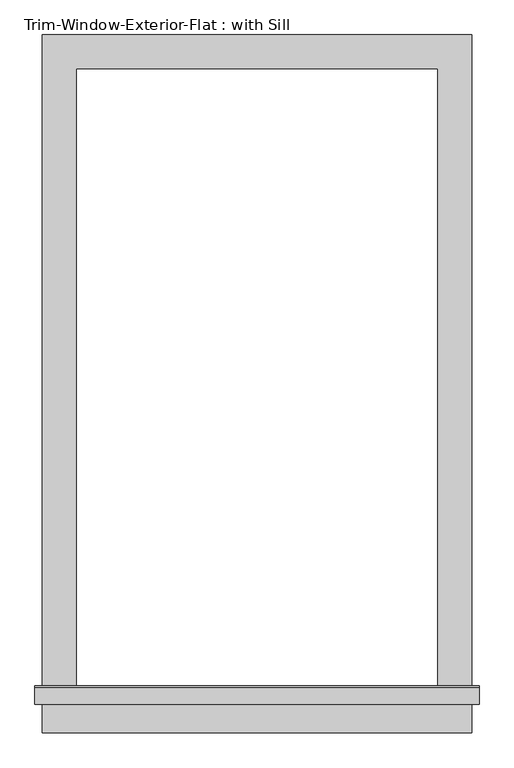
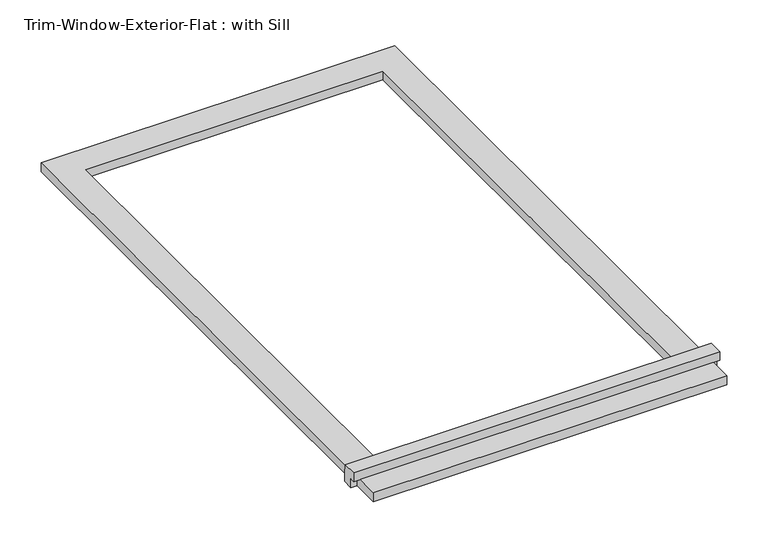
"""IFC4 building model written with IfcOpenShell, lengths in millimetres: proxy geometry, Trim-Window-Exterior-Flat : with Sill."""

from ifc_helpers import new_model, si_unit, frame, origin, origin_with_axes, place, context, project, spatial, polyline, outline, extrude, source, transform, mapped, element, save


def trim_window_exterior_flat_with_sill_8877020c(model_context):
    return source(origin(), model_context, "Body", "SweptSolid", [
        extrude(outline(polyline([(361.95, -1063.5823709), (361.95, -1120.7323709), (-361.95, -1120.7323709), (-361.95, -1063.5823709), (361.95, -1063.5823709)])), origin_with_axes(), (0.0, 0.0, 1.0), 19.05),
        extrude(outline(polyline([(-1073.15, 38.1), (-1043.8580645, 38.1), (-1041.4, 19.05), (-1041.4, 0.0), (-1063.5823709, 0.0), (-1063.5823709, 19.05), (-1073.15, 19.05), (-1073.15, 38.1)])), frame((-374.65, 0.0, 0.0), z_axis=(1.0, 0.0, 0.0), x_axis=(0.0, 1.0, 0.0)), (0.0, 0.0, 1.0), 749.3),
        extrude(outline(polyline([(-361.95, 57.15), (361.95, 57.15), (361.95, -1041.4), (304.8, -1041.4), (304.8, 0.0), (-304.8, 0.0), (-304.8, -1041.4), (-361.95, -1041.4), (-361.95, 57.15)])), origin_with_axes(), (0.0, 0.0, 1.0), 19.05),
    ])


if __name__ == "__main__":
    model = new_model("IFC4")
    model_context = context("Model", 3, world=origin())
    ifc_project = project(units=[si_unit("LENGTHUNIT", "METRE", prefix="MILLI")], contexts=[model_context])
    site = spatial("IfcSite", under=ifc_project)
    building = spatial("IfcBuilding", under=site)
    placement = place(None, origin())
    trim_window_exterior_flat_with_sill_shape = trim_window_exterior_flat_with_sill_8877020c(model_context)
    element("IfcBuildingElementProxy", 1, Name="Trim-Window-Exterior-Flat : with Sill", ObjectType="Trim-Window-Exterior-Flat : with Sill", at=placement, inside=building, context=model_context, shape_type="MappedRepresentation", body=[
        mapped(trim_window_exterior_flat_with_sill_shape, transform((0.0, 0.0, 0.0), x_axis=(1.0, 0.0, 0.0), y_axis=(0.0, 1.0, 0.0), z_axis=(0.0, 0.0, 1.0))),
    ])
    save(model, "model.ifc")
